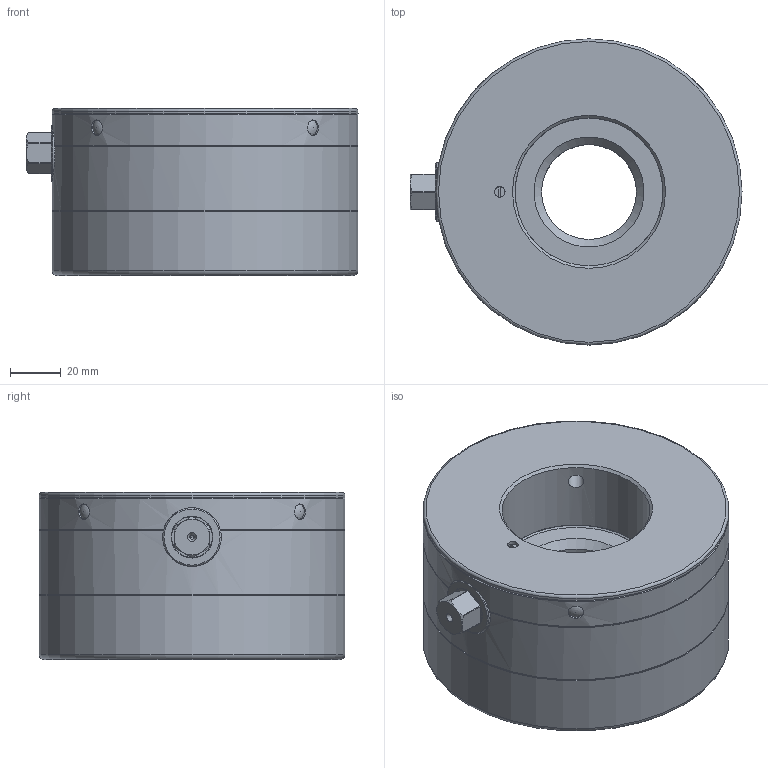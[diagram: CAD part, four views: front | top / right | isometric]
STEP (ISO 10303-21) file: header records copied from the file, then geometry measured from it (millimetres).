
FILE_DESCRIPTION(/* description */ ('Unknown','CAx-IF Rec.Pracs.---Representation and Presentation of Product Manufacturing Information (PMI)---4.0---2014-10-13','CAx-IF Rec.Pracs.---3D Tessellated Geometry---0.4---2014-09-14','2;1'),/* implementation_level */ '2;1');
FILE_NAME(/* name */ 'MDR 150 - M42 - SW14',/* time_stamp */ '2023-09-26T12:05:42+02:00',/* author */ ('Unknown'),/* organization */ ('Unknown'),/* preprocessor_version */ 'ST-DEVELOPER v18.102',/* originating_system */ 'Solid Edge',/* authorisation */ 'Unknown');
FILE_SCHEMA (('AP242_MANAGED_MODEL_BASED_3D_ENGINEERING_MIM_LF { 1 0 10303 442 1 1 4 }'));
Length unit declared in the file: millimetre
Products named in the file (1): 16332953_Vereinfachung
Bounding box: 130.2 x 120 x 65.5 mm (x, y, z)
Volume: 620795.3 mm3; surface area: 58618.9 mm2
Topology: 1 solids, 1 shells, 96 faces, 229 edges, 144 vertices
Faces by surface type: plane 31, cone 27, cylinder 27, sphere 8, torus 3
Full cylindrical faces by diameter (mm): 1.6 x2, 4.134 x1, 6 x8, 12 x1, 16 x1, 37.129 x1, 52 x1, 58 x1, 67 x1, 119 x1, 120 x4
Entity records: 3067 total; most frequent: CARTESIAN_POINT 546, DIRECTION 394, ORIENTED_EDGE 294, AXIS2_PLACEMENT_3D 182, FACE_BOUND 162, EDGE_LOOP 160, EDGE_CURVE 147, VERTEX_POINT 117
